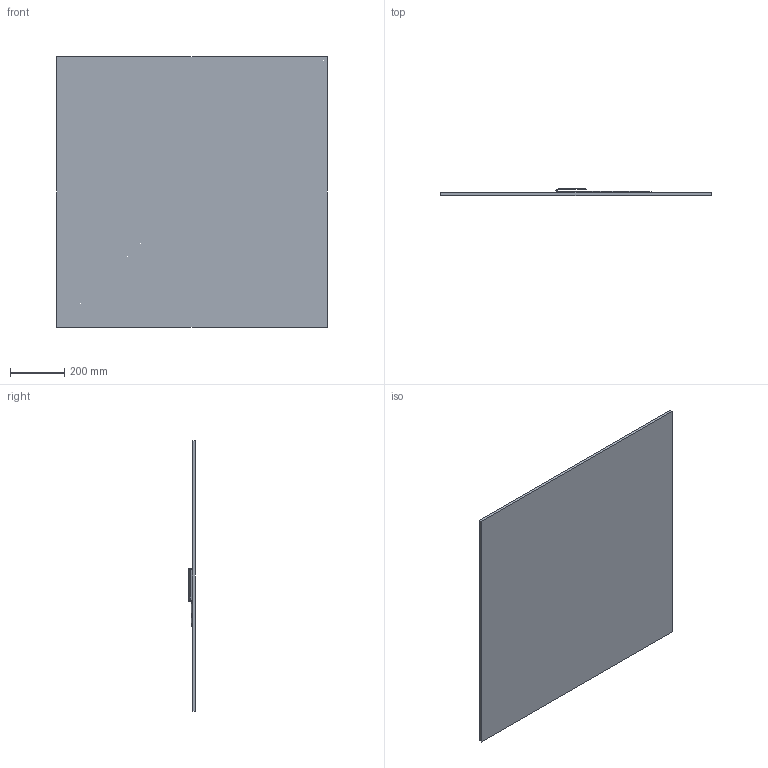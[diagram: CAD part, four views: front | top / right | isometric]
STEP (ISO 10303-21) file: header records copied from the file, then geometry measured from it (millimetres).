
FILE_DESCRIPTION (( 'STEP AP203' ), '1' );
FILE_NAME ('wallet a203.STEP', '2011-09-01T14:43:49', ( '' ), ( '' ), 'SwSTEP 2.0', 'SolidWorks 2011', '' );
FILE_SCHEMA (( 'CONFIG_CONTROL_DESIGN' ));
Length unit declared in the file: millimetre
Products named in the file (6): wallet a203; Copy of Copy of Copy of dollar^Assem1; Copy of Copy of dollar^Assem1; Copy of dollar^Assem1; table; Part1
Assembly tree (5 placements, depth 2):
  wallet a203
    table
    Part1
    Copy of dollar^Assem1
    Copy of Copy of Copy of dollar^Assem1
    Copy of Copy of dollar^Assem1
Bounding box: 1000 x 25.76 x 1000 mm (x, y, z)
Volume: 10065850 mm3; surface area: 2191131.7 mm2
Topology: 7 solids, 10 shells, 2226 faces, 5534 edges, 3698 vertices
Faces by surface type: plane 1922, bspline 287, cylinder 9, torus 8
Entity records: 73253 total; most frequent: CARTESIAN_POINT 23357, ORIENTED_EDGE 11052, DIRECTION 7900, EDGE_CURVE 5532, VECTOR 3936, LINE 3936, VERTEX_POINT 3698, EDGE_LOOP 2605
